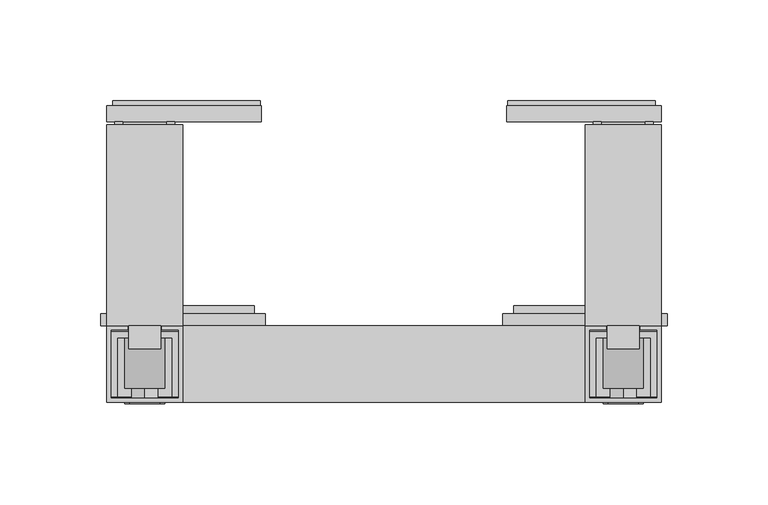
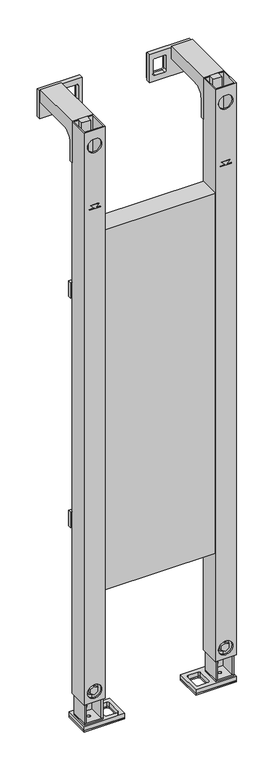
"""IFC4 building model written with IfcOpenShell, lengths in millimetres: flow terminal geometry, nextVIT Stütz-Stützklappgriff-Element : nextVIT Stütz-Stützklappgriff-Element."""

from ifc_helpers import new_model, si_unit, point, frame, frame_2d, origin, origin_with_axes, place, context, project, spatial, polyline, circle_curve, trimmed, segment, composite_curve, outline, extrude, source, transform, mapped, element, save
from ifc_brep_helpers import plane_surface, revolved_surface, advanced_brep


def flow_terminal_dd3215cd(model_context):
    return source(origin(), model_context, "Body", "SolidModel", [
        extrude(outline(polyline([(64.5, -102.0), (138.0, -102.0), (138.0, -150.0), (64.5, -150.0), (64.5, -102.0)]), holes=[composite_curve([segment(trimmed(circle_curve(frame_2d((74.0, -139.0)), 3.0), [point((71.0, -139.0))], [point((74.0, -142.0))], True, "CARTESIAN"), True, "CONTINUOUS"), segment(polyline([(74.0, -142.0), (91.5, -142.0)]), True, "CONTINUOUS"), segment(trimmed(circle_curve(frame_2d((91.5, -139.0)), 3.0), [point((91.5, -142.0))], [point((94.5, -139.0))], True, "CARTESIAN"), True, "CONTINUOUS"), segment(polyline([(94.5, -139.0), (94.5, -113.0)]), True, "CONTINUOUS"), segment(trimmed(circle_curve(frame_2d((91.5, -113.0)), 3.0), [point((94.5, -113.0))], [point((91.5, -110.0))], True, "CARTESIAN"), True, "CONTINUOUS"), segment(polyline([(91.5, -110.0), (74.0, -110.0)]), True, "CONTINUOUS"), segment(trimmed(circle_curve(frame_2d((74.0, -113.0)), 3.0), [point((74.0, -110.0))], [point((71.0, -113.0))], True, "CARTESIAN"), True, "CONTINUOUS"), segment(polyline([(71.0, -113.0), (71.0, -139.0)]), True, "CONTINUOUS")], self_intersect=False)]), origin_with_axes(), (0.0, 0.0, 1.0), 2.5),
        extrude(outline(polyline([(64.5, -102.0), (138.0, -102.0), (138.0, -150.0), (64.5, -150.0), (64.5, -102.0)]), holes=[composite_curve([segment(trimmed(circle_curve(frame_2d((74.0, -139.0)), 3.0), [point((71.0, -139.0))], [point((74.0, -142.0))], True, "CARTESIAN"), True, "CONTINUOUS"), segment(polyline([(74.0, -142.0), (91.5, -142.0)]), True, "CONTINUOUS"), segment(trimmed(circle_curve(frame_2d((91.5, -139.0)), 3.0), [point((91.5, -142.0))], [point((94.5, -139.0))], True, "CARTESIAN"), True, "CONTINUOUS"), segment(polyline([(94.5, -139.0), (94.5, -113.0)]), True, "CONTINUOUS"), segment(trimmed(circle_curve(frame_2d((91.5, -113.0)), 3.0), [point((94.5, -113.0))], [point((91.5, -110.0))], True, "CARTESIAN"), True, "CONTINUOUS"), segment(polyline([(91.5, -110.0), (74.0, -110.0)]), True, "CONTINUOUS"), segment(trimmed(circle_curve(frame_2d((74.0, -113.0)), 3.0), [point((74.0, -110.0))], [point((71.0, -113.0))], True, "CARTESIAN"), True, "CONTINUOUS"), segment(polyline([(71.0, -113.0), (71.0, -139.0)]), True, "CONTINUOUS")], self_intersect=False), composite_curve([segment(trimmed(circle_curve(frame_2d((120.45, -121.0)), 3.25), [point((123.7, -121.0))], [point((117.2, -121.0))], True, "CARTESIAN"), True, "CONTINUOUS"), segment(polyline([(117.2, -121.0), (117.2, -131.0)]), True, "CONTINUOUS"), segment(trimmed(circle_curve(frame_2d((120.45, -131.0)), 3.25), [point((117.2, -131.0))], [point((123.7, -131.0))], True, "CARTESIAN"), True, "CONTINUOUS"), segment(polyline([(123.7, -131.0), (123.7, -121.0)]), True, "CONTINUOUS")], self_intersect=False)]), frame((0.0, 0.0, 2.5), z_axis=(0.0, 0.0, 1.0), x_axis=(1.0, 0.0, 0.0)), (0.0, 0.0, 1.0), 8.0),
        extrude(outline(polyline([(79.7055535, 119.0), (75.9527767, 112.5), (68.4472233, 112.5), (64.6944465, 119.0), (68.4472233, 125.5), (75.9527767, 125.5), (79.7055535, 119.0)])), frame((0.0, -148.3, 0.0), z_axis=(0.0, 1.0, 0.0), x_axis=(0.0, 0.0, 1.0)), (0.0, 0.0, 1.0), 5.3),
        extrude(outline(composite_curve([segment(trimmed(circle_curve(frame_2d((72.2, 119.0)), 10.0), [point((72.2, 129.0))], [point((72.2, 109.0))], False, "CARTESIAN"), True, "CONTINUOUS"), segment(trimmed(circle_curve(frame_2d((72.2, 119.0)), 10.0), [point((72.2, 109.0))], [point((72.2, 129.0))], False, "CARTESIAN"), True, "CONTINUOUS")], self_intersect=False)), frame((0.0, -143.0, 0.0), z_axis=(0.0, 1.0, 0.0), x_axis=(0.0, 0.0, 1.0)), (0.0, 0.0, 1.0), 26.0),
        extrude(outline(polyline([(134.0, -109.0), (134.0, -112.0), (104.0, -112.0), (104.0, -109.0), (134.0, -109.0)])), frame((0.0, 0.0, 52.2), z_axis=(0.0, 0.0, 1.0), x_axis=(1.0, 0.0, 0.0)), (0.0, 0.0, 1.0), 40.0),
        extrude(outline(composite_curve([segment(trimmed(circle_curve(frame_2d((72.2, 119.0)), 4.0), [point((72.2, 123.0))], [point((72.2, 115.0))], False, "CARTESIAN"), True, "CONTINUOUS"), segment(trimmed(circle_curve(frame_2d((72.2, 119.0)), 4.0), [point((72.2, 115.0))], [point((72.2, 123.0))], False, "CARTESIAN"), True, "CONTINUOUS")], self_intersect=False)), frame((0.0, -117.0, 0.0), z_axis=(0.0, 1.0, 0.0), x_axis=(0.0, 0.0, 1.0)), (0.0, 0.0, 1.0), 19.0),
        extrude(outline(polyline([(102.4, -147.1), (102.4, -114.9), (135.6, -114.9), (135.6, -147.1), (102.4, -147.1)]), holes=[composite_curve([segment(trimmed(circle_curve(frame_2d((119.0, -131.9)), 2.5), [point((116.5, -131.9))], [point((121.5, -131.9))], True, "CARTESIAN"), True, "CONTINUOUS"), segment(trimmed(circle_curve(frame_2d((119.0, -131.9)), 2.5), [point((121.5, -131.9))], [point((116.5, -131.9))], True, "CARTESIAN"), True, "CONTINUOUS")], self_intersect=False)]), frame((0.0, 0.0, 10.5), z_axis=(0.0, 0.0, 1.0), x_axis=(1.0, 0.0, 0.0)), (0.0, 0.0, 1.0), 3.0),
        advanced_brep(
        [(132.6, -147.1, 363.5), (135.6, -147.1, 363.5), (135.6, -114.9, 363.5), (102.4, -114.9, 363.5), (102.4, -147.1, 363.5), (105.4, -147.1, 363.5), (105.4, -117.9, 363.5), (132.6, -117.9, 363.5), (132.6, -147.1, 13.5), (132.6, -117.9, 13.5), (105.4, -117.9, 13.5), (105.4, -147.1, 13.5), (102.4, -147.1, 13.5), (102.4, -114.9, 13.5), (135.6, -114.9, 13.5), (135.6, -147.1, 13.5), (114.5, -114.9, 23.6801435), (123.5, -114.9, 23.6801435), (114.0, -114.9, 37.7), (124.0, -114.9, 37.7), (124.0, -114.9, 335.5), (114.0, -114.9, 335.5), (123.5, -117.9, 23.6801435), (114.5, -117.9, 23.6801435), (114.0, -117.9, 335.5), (124.0, -117.9, 335.5), (124.0, -117.9, 37.7), (114.0, -117.9, 37.7)],
        [
            (0, 1),
            (1, 2),
            (2, 3),
            (3, 4),
            (4, 5),
            (5, 6),
            (6, 7),
            (7, 0),
            (8, 9),
            (9, 10),
            (10, 11),
            (11, 12),
            (12, 13),
            (13, 14),
            (14, 15),
            (15, 8),
            (3, 13),
            (12, 4),
            (2, 14),
            (16, 17, circle_curve(frame((119.0, -114.9, 23.6801435), z_axis=(0.0, -1.0, 0.0), x_axis=(1.0, 0.0, 0.0)), 4.5)),
            (17, 16, circle_curve(frame((119.0, -114.9, 23.6801435), z_axis=(0.0, -1.0, 0.0), x_axis=(1.0, 0.0, 0.0)), 4.5)),
            (18, 19, circle_curve(frame((119.0, -114.9, 37.7), z_axis=(0.0, -1.0, 0.0), x_axis=(1.0, 0.0, 0.0)), 5.0)),
            (19, 20),
            (20, 21, circle_curve(frame((119.0, -114.9, 335.5), z_axis=(0.0, -1.0, 0.0), x_axis=(1.0, 0.0, 0.0)), 5.0)),
            (21, 18),
            (1, 15),
            (0, 8),
            (7, 9),
            (6, 10),
            (22, 23, circle_curve(frame((119.0, -117.9, 23.6801435), z_axis=(0.0, 1.0, 0.0), x_axis=(1.0, 0.0, 0.0)), 4.5)),
            (23, 22, circle_curve(frame((119.0, -117.9, 23.6801435), z_axis=(0.0, 1.0, 0.0), x_axis=(1.0, 0.0, 0.0)), 4.5)),
            (24, 25, circle_curve(frame((119.0, -117.9, 335.5), z_axis=(0.0, 1.0, 0.0), x_axis=(1.0, 0.0, 0.0)), 5.0)),
            (25, 26),
            (26, 27, circle_curve(frame((119.0, -117.9, 37.7), z_axis=(0.0, 1.0, 0.0), x_axis=(1.0, 0.0, 0.0)), 5.0)),
            (27, 24),
            (5, 11),
            (23, 16),
            (17, 22),
            (27, 18),
            (21, 24),
            (20, 25),
            (19, 26),
        ],
        [
            plane_surface(frame((132.6, -147.1, 363.5), z_axis=(0.0, 0.0, 1.0), x_axis=(0.0, 1.0, 0.0))),
            plane_surface(frame((132.6, -147.1, 13.5), z_axis=(0.0, 0.0, -1.0), x_axis=(0.0, -1.0, 0.0))),
            plane_surface(frame((102.4, -147.1, 363.5), z_axis=(-1.0, 0.0, 0.0), x_axis=(0.0, 0.0, -1.0))),
            plane_surface(frame((102.4, -114.9, 363.5), z_axis=(0.0, 1.0, 0.0), x_axis=(0.0, 0.0, -1.0))),
            plane_surface(frame((135.6, -114.9, 363.5), z_axis=(1.0, 0.0, 0.0), x_axis=(0.0, 0.0, -1.0))),
            plane_surface(frame((135.6, -147.1, 363.5), z_axis=(0.0, -1.0, 0.0), x_axis=(0.0, 0.0, -1.0))),
            plane_surface(frame((132.6, -147.1, 363.5), z_axis=(-1.0, 0.0, 0.0), x_axis=(0.0, 0.0, -1.0))),
            plane_surface(frame((132.6, -117.9, 363.5), z_axis=(0.0, -1.0, 0.0), x_axis=(0.0, 0.0, -1.0))),
            plane_surface(frame((105.4, -117.9, 363.5), z_axis=(1.0, 0.0, 0.0), x_axis=(0.0, 0.0, -1.0))),
            plane_surface(frame((105.4, -147.1, 363.5), z_axis=(0.0, -1.0, 0.0), x_axis=(0.0, 0.0, -1.0))),
            revolved_surface(polyline([(123.5, -117.9, 23.6801435), (123.5, -114.9, 23.6801435)]), (119.0, -117.9, 23.6801435), (0.0, -1.0, 0.0)),
            plane_surface(frame((114.0, -117.9, 37.7), z_axis=(1.0, 0.0, 0.0), x_axis=(0.0, 1.0, 0.0))),
            revolved_surface(polyline([(124.0, -117.9, 335.5), (124.0, -114.9, 335.5)]), (119.0, -117.9, 335.5), (0.0, -1.0, 0.0)),
            plane_surface(frame((124.0, -117.9, 335.5), z_axis=(-1.0, 0.0, 0.0), x_axis=(0.0, 1.0, 0.0))),
            revolved_surface(polyline([(124.0, -117.9, 37.7), (124.0, -114.9, 37.7)]), (119.0, -117.9, 37.7), (0.0, -1.0, 0.0)),
        ],
        [
            (0, [[1, 2, 3, 4, 5, 6, 7, 8]]),
            (1, [[9, 10, 11, 12, 13, 14, 15, 16]]),
            (2, [[17, -13, 18, -4]]),
            (3, [[19, -14, -17, -3], [20, 21], [22, 23, 24, 25]]),
            (4, [[26, -15, -19, -2]]),
            (5, [[27, -16, -26, -1]]),
            (6, [[28, -9, -27, -8]]),
            (7, [[29, -10, -28, -7], [30, 31], [32, 33, 34, 35]]),
            (8, [[36, -11, -29, -6]]),
            (9, [[-18, -12, -36, -5]]),
            (10, [[-31, 37, -21, 38]]),
            (10, [[-20, -37, -30, -38]]),
            (11, [[-35, 39, -25, 40]]),
            (12, [[-24, 41, -32, -40]]),
            (13, [[-23, 42, -33, -41]]),
            (14, [[-34, -42, -22, -39]]),
        ],
    ),
        extrude(outline(polyline([(-64.5, -102.0), (-64.5, -150.0), (-138.0, -150.0), (-138.0, -102.0), (-64.5, -102.0)]), holes=[composite_curve([segment(polyline([(-71.0, -139.0), (-71.0, -113.0)]), True, "CONTINUOUS"), segment(trimmed(circle_curve(frame_2d((-74.0, -113.0)), 3.0), [point((-71.0, -113.0))], [point((-74.0, -110.0))], True, "CARTESIAN"), True, "CONTINUOUS"), segment(polyline([(-74.0, -110.0), (-91.5, -110.0)]), True, "CONTINUOUS"), segment(trimmed(circle_curve(frame_2d((-91.5, -113.0)), 3.0), [point((-91.5, -110.0))], [point((-94.5, -113.0))], True, "CARTESIAN"), True, "CONTINUOUS"), segment(polyline([(-94.5, -113.0), (-94.5, -139.0)]), True, "CONTINUOUS"), segment(trimmed(circle_curve(frame_2d((-91.5, -139.0)), 3.0), [point((-94.5, -139.0))], [point((-91.5, -142.0))], True, "CARTESIAN"), True, "CONTINUOUS"), segment(polyline([(-91.5, -142.0), (-74.0, -142.0)]), True, "CONTINUOUS"), segment(trimmed(circle_curve(frame_2d((-74.0, -139.0)), 3.0), [point((-74.0, -142.0))], [point((-71.0, -139.0))], True, "CARTESIAN"), True, "CONTINUOUS")], self_intersect=False)]), origin_with_axes(), (0.0, 0.0, 1.0), 2.5),
        extrude(outline(polyline([(-64.5, -102.0), (-64.5, -150.0), (-138.0, -150.0), (-138.0, -102.0), (-64.5, -102.0)]), holes=[composite_curve([segment(polyline([(-71.0, -139.0), (-71.0, -113.0)]), True, "CONTINUOUS"), segment(trimmed(circle_curve(frame_2d((-74.0, -113.0)), 3.0), [point((-71.0, -113.0))], [point((-74.0, -110.0))], True, "CARTESIAN"), True, "CONTINUOUS"), segment(polyline([(-74.0, -110.0), (-91.5, -110.0)]), True, "CONTINUOUS"), segment(trimmed(circle_curve(frame_2d((-91.5, -113.0)), 3.0), [point((-91.5, -110.0))], [point((-94.5, -113.0))], True, "CARTESIAN"), True, "CONTINUOUS"), segment(polyline([(-94.5, -113.0), (-94.5, -139.0)]), True, "CONTINUOUS"), segment(trimmed(circle_curve(frame_2d((-91.5, -139.0)), 3.0), [point((-94.5, -139.0))], [point((-91.5, -142.0))], True, "CARTESIAN"), True, "CONTINUOUS"), segment(polyline([(-91.5, -142.0), (-74.0, -142.0)]), True, "CONTINUOUS"), segment(trimmed(circle_curve(frame_2d((-74.0, -139.0)), 3.0), [point((-74.0, -142.0))], [point((-71.0, -139.0))], True, "CARTESIAN"), True, "CONTINUOUS")], self_intersect=False), composite_curve([segment(polyline([(-123.7, -121.0), (-123.7, -131.0)]), True, "CONTINUOUS"), segment(trimmed(circle_curve(frame_2d((-120.45, -131.0)), 3.25), [point((-123.7, -131.0))], [point((-117.2, -131.0))], True, "CARTESIAN"), True, "CONTINUOUS"), segment(polyline([(-117.2, -131.0), (-117.2, -121.0)]), True, "CONTINUOUS"), segment(trimmed(circle_curve(frame_2d((-120.45, -121.0)), 3.25), [point((-117.2, -121.0))], [point((-123.7, -121.0))], True, "CARTESIAN"), True, "CONTINUOUS")], self_intersect=False)]), frame((0.0, 0.0, 2.5), z_axis=(0.0, 0.0, 1.0), x_axis=(1.0, 0.0, 0.0)), (0.0, 0.0, 1.0), 8.0),
        extrude(outline(polyline([(1141.522581, 61.5), (1093.522581, 61.5), (1093.522581, 135.0), (1141.522581, 135.0), (1141.522581, 61.5)]), holes=[composite_curve([segment(polyline([(1104.522581, 68.0), (1130.522581, 68.0)]), True, "CONTINUOUS"), segment(trimmed(circle_curve(frame_2d((1130.522581, 71.0)), 3.0), [point((1130.522581, 68.0))], [point((1133.522581, 71.0))], True, "CARTESIAN"), True, "CONTINUOUS"), segment(polyline([(1133.522581, 71.0), (1133.522581, 88.5)]), True, "CONTINUOUS"), segment(trimmed(circle_curve(frame_2d((1130.522581, 88.5)), 3.0), [point((1133.522581, 88.5))], [point((1130.522581, 91.5))], True, "CARTESIAN"), True, "CONTINUOUS"), segment(polyline([(1130.522581, 91.5), (1104.522581, 91.5)]), True, "CONTINUOUS"), segment(trimmed(circle_curve(frame_2d((1104.522581, 88.5)), 3.0), [point((1104.522581, 91.5))], [point((1101.522581, 88.5))], True, "CARTESIAN"), True, "CONTINUOUS"), segment(polyline([(1101.522581, 88.5), (1101.522581, 71.0)]), True, "CONTINUOUS"), segment(trimmed(circle_curve(frame_2d((1104.522581, 71.0)), 3.0), [point((1101.522581, 71.0))], [point((1104.522581, 68.0))], True, "CARTESIAN"), True, "CONTINUOUS")], self_intersect=False)]), frame((0.0, -2.5, 0.0), z_axis=(0.0, 1.0, 0.0), x_axis=(0.0, 0.0, 1.0)), (0.0, 0.0, 1.0), 2.5),
        extrude(outline(polyline([(1141.522581, -61.5), (1141.522581, -135.0), (1093.522581, -135.0), (1093.522581, -61.5), (1141.522581, -61.5)]), holes=[composite_curve([segment(trimmed(circle_curve(frame_2d((1104.522581, -71.0)), 3.0), [point((1104.522581, -68.0))], [point((1101.522581, -71.0))], True, "CARTESIAN"), True, "CONTINUOUS"), segment(polyline([(1101.522581, -71.0), (1101.522581, -88.5)]), True, "CONTINUOUS"), segment(trimmed(circle_curve(frame_2d((1104.522581, -88.5)), 3.0), [point((1101.522581, -88.5))], [point((1104.522581, -91.5))], True, "CARTESIAN"), True, "CONTINUOUS"), segment(polyline([(1104.522581, -91.5), (1130.522581, -91.5)]), True, "CONTINUOUS"), segment(trimmed(circle_curve(frame_2d((1130.522581, -88.5)), 3.0), [point((1130.522581, -91.5))], [point((1133.522581, -88.5))], True, "CARTESIAN"), True, "CONTINUOUS"), segment(polyline([(1133.522581, -88.5), (1133.522581, -71.0)]), True, "CONTINUOUS"), segment(trimmed(circle_curve(frame_2d((1130.522581, -71.0)), 3.0), [point((1133.522581, -71.0))], [point((1130.522581, -68.0))], True, "CARTESIAN"), True, "CONTINUOUS"), segment(polyline([(1130.522581, -68.0), (1104.522581, -68.0)]), True, "CONTINUOUS")], self_intersect=False)]), frame((0.0, -2.5, 0.0), z_axis=(0.0, 1.0, 0.0), x_axis=(0.0, 0.0, 1.0)), (0.0, 0.0, 1.0), 2.5),
        extrude(outline(polyline([(-111.0, -112.0), (-111.0, -123.5), (-127.0, -123.5), (-127.0, -112.0), (-111.0, -112.0)])), frame((0.0, 0.0, 1113.0), z_axis=(0.0, 0.0, 1.0), x_axis=(1.0, 0.0, 0.0)), (0.0, 0.0, 1.0), 35.0),
        extrude(outline(polyline([(1144.022581, -138.0), (1091.022581, -138.0), (1091.022581, -61.0), (1144.022581, -61.0), (1144.022581, -138.0)]), holes=[composite_curve([segment(polyline([(1133.522581, -88.5), (1133.522581, -71.0)]), True, "CONTINUOUS"), segment(trimmed(circle_curve(frame_2d((1130.522581, -71.0)), 3.0), [point((1133.522581, -71.0))], [point((1130.522581, -68.0))], True, "CARTESIAN"), True, "CONTINUOUS"), segment(polyline([(1130.522581, -68.0), (1104.522581, -68.0)]), True, "CONTINUOUS"), segment(trimmed(circle_curve(frame_2d((1104.522581, -71.0)), 3.0), [point((1104.522581, -68.0))], [point((1101.522581, -71.0))], True, "CARTESIAN"), True, "CONTINUOUS"), segment(polyline([(1101.522581, -71.0), (1101.522581, -88.5)]), True, "CONTINUOUS"), segment(trimmed(circle_curve(frame_2d((1104.522581, -88.5)), 3.0), [point((1101.522581, -88.5))], [point((1104.522581, -91.5))], True, "CARTESIAN"), True, "CONTINUOUS"), segment(polyline([(1104.522581, -91.5), (1130.522581, -91.5)]), True, "CONTINUOUS"), segment(trimmed(circle_curve(frame_2d((1130.522581, -88.5)), 3.0), [point((1130.522581, -91.5))], [point((1133.522581, -88.5))], True, "CARTESIAN"), True, "CONTINUOUS")], self_intersect=False)]), frame((0.0, -10.5, 0.0), z_axis=(0.0, 1.0, 0.0), x_axis=(0.0, 0.0, 1.0)), (0.0, 0.0, 1.0), 8.0),
        extrude(outline(polyline([(1128.022581, -108.05), (1128.022581, -129.95), (1145.0, -129.95), (1145.0, -133.95), (1124.5225837, -133.95), (1124.5225837, -104.05), (1145.0, -104.05), (1145.0, -108.05), (1128.022581, -108.05)])), frame((0.0, -105.0, 0.0), z_axis=(0.0, 1.0, 0.0), x_axis=(0.0, 0.0, 1.0)), (0.0, 0.0, 1.0), 94.5),
        advanced_brep(
        [(-100.0, -12.0882353, 1124.0), (-100.0, -12.0882353, 1148.0), (-100.0, -112.0, 1148.0), (-100.0, -112.0, 1069.0231613), (-100.0, -106.0, 1069.0231613), (-100.0, -106.0, 1104.0), (-100.0, -86.0, 1124.0), (-138.0, -12.0882353, 1124.0), (-138.0, -86.0, 1124.0), (-138.0, -106.0, 1104.0), (-138.0, -106.0, 1069.0231613), (-138.0, -112.0, 1069.0231613), (-138.0, -112.0, 1148.0), (-138.0, -12.0882353, 1148.0), (-103.0, -12.0882353, 1124.0), (-103.0, -12.0882353, 1144.0), (-135.0, -12.0882353, 1144.0), (-135.0, -12.0882353, 1124.0), (-135.0, -106.0, 1104.0), (-135.0, -106.0, 1144.0), (-103.0, -106.0, 1144.0), (-103.0, -106.0, 1104.0), (-103.0, -86.0, 1124.0), (-135.0, -86.0, 1124.0)],
        [
            (0, 1),
            (1, 2),
            (2, 3),
            (3, 4),
            (4, 5),
            (5, 6, circle_curve(frame((-100.0, -86.0, 1104.0), z_axis=(-1.0, 0.0, 0.0), x_axis=(0.0, 1.0, 0.0)), 20.0)),
            (6, 0),
            (7, 8),
            (8, 9, circle_curve(frame((-138.0, -86.0, 1104.0), z_axis=(1.0, 0.0, 0.0), x_axis=(0.0, 1.0, 0.0)), 20.0)),
            (9, 10),
            (10, 11),
            (11, 12),
            (12, 13),
            (13, 7),
            (0, 14),
            (14, 15),
            (15, 16),
            (16, 17),
            (17, 7),
            (13, 1),
            (12, 2),
            (11, 3),
            (10, 4),
            (9, 18),
            (18, 19),
            (19, 20),
            (20, 21),
            (21, 5),
            (21, 22, circle_curve(frame((-103.0, -86.0, 1104.0), z_axis=(-1.0, 0.0, 0.0), x_axis=(0.0, 1.0, 0.0)), 20.0)),
            (22, 6),
            (8, 23),
            (23, 18, circle_curve(frame((-135.0, -86.0, 1104.0), z_axis=(1.0, 0.0, 0.0), x_axis=(0.0, 1.0, 0.0)), 20.0)),
            (22, 14),
            (17, 23),
            (20, 15),
            (19, 16),
        ],
        [
            plane_surface(frame((-100.0, -12.0882353, 1124.0), z_axis=(1.0, 0.0, 0.0), x_axis=(0.0, 0.0, 1.0))),
            plane_surface(frame((-138.0, -12.0882353, 1124.0), z_axis=(-1.0, 0.0, 0.0), x_axis=(0.0, 0.0, -1.0))),
            plane_surface(frame((-100.0, -12.0882353, 1124.0), z_axis=(0.0, 1.0, 0.0), x_axis=(-1.0, 0.0, 0.0))),
            plane_surface(frame((-100.0, -12.0882353, 1148.0), z_axis=(0.0, 0.0, 1.0), x_axis=(-1.0, 0.0, 0.0))),
            plane_surface(frame((-100.0, -112.0, 1148.0), z_axis=(0.0, -1.0, 0.0), x_axis=(-1.0, 0.0, 0.0))),
            plane_surface(frame((-100.0, -112.0, 1069.0231613), z_axis=(0.0, 0.0, -1.0), x_axis=(-1.0, 0.0, 0.0))),
            plane_surface(frame((-100.0, -106.0, 1069.0231613), z_axis=(0.0, 1.0, 0.0), x_axis=(-1.0, 0.0, 0.0))),
            revolved_surface(polyline([(-103.0, -66.0, 1104.0), (-100.0, -66.0, 1104.0)]), (-138.0, -86.0, 1104.0), (-1.0, 0.0, 0.0)),
            revolved_surface(polyline([(-138.0, -66.0, 1104.0), (-135.0, -66.0, 1104.0)]), (-138.0, -86.0, 1104.0), (-1.0, 0.0, 0.0)),
            plane_surface(frame((-100.0, -86.0, 1124.0), z_axis=(0.0, 0.0, -1.0), x_axis=(-1.0, 0.0, 0.0))),
            plane_surface(frame((-103.0, -106.0, 1102.9875977), z_axis=(-1.0, 0.0, 0.0), x_axis=(0.0, 1.0, 0.0))),
            plane_surface(frame((-103.0, -106.0, 1144.0), z_axis=(0.0, 0.0, -1.0), x_axis=(0.0, 1.0, 0.0))),
            plane_surface(frame((-135.0, -106.0, 1144.0), z_axis=(1.0, 0.0, 0.0), x_axis=(0.0, 1.0, 0.0))),
        ],
        [
            (0, [[1, 2, 3, 4, 5, 6, 7]]),
            (1, [[8, 9, 10, 11, 12, 13, 14]]),
            (2, [[-1, 15, 16, 17, 18, 19, -14, 20]]),
            (3, [[-2, -20, -13, 21]]),
            (4, [[-3, -21, -12, 22]]),
            (5, [[-4, -22, -11, 23]]),
            (6, [[-5, -23, -10, 24, 25, 26, 27, 28]]),
            (7, [[-6, -28, 29, 30]]),
            (8, [[-9, 31, 32, -24]]),
            (9, [[-7, -30, 33, -15]]),
            (9, [[-8, -19, 34, -31]]),
            (10, [[35, -16, -33, -29, -27]]),
            (11, [[-26, 36, -17, -35]]),
            (12, [[-36, -25, -32, -34, -18]]),
        ],
    ),
        extrude(outline(polyline([(111.0, -112.0), (127.0, -112.0), (127.0, -123.5), (111.0, -123.5), (111.0, -112.0)])), frame((0.0, 0.0, 1113.0), z_axis=(0.0, 0.0, 1.0), x_axis=(1.0, 0.0, 0.0)), (0.0, 0.0, 1.0), 35.0),
        extrude(outline(polyline([(1144.022581, 138.0), (1144.022581, 61.0), (1091.022581, 61.0), (1091.022581, 138.0), (1144.022581, 138.0)]), holes=[composite_curve([segment(trimmed(circle_curve(frame_2d((1130.522581, 88.5)), 3.0), [point((1133.522581, 88.5))], [point((1130.522581, 91.5))], True, "CARTESIAN"), True, "CONTINUOUS"), segment(polyline([(1130.522581, 91.5), (1104.522581, 91.5)]), True, "CONTINUOUS"), segment(trimmed(circle_curve(frame_2d((1104.522581, 88.5)), 3.0), [point((1104.522581, 91.5))], [point((1101.522581, 88.5))], True, "CARTESIAN"), True, "CONTINUOUS"), segment(polyline([(1101.522581, 88.5), (1101.522581, 71.0)]), True, "CONTINUOUS"), segment(trimmed(circle_curve(frame_2d((1104.522581, 71.0)), 3.0), [point((1101.522581, 71.0))], [point((1104.522581, 68.0))], True, "CARTESIAN"), True, "CONTINUOUS"), segment(polyline([(1104.522581, 68.0), (1130.522581, 68.0)]), True, "CONTINUOUS"), segment(trimmed(circle_curve(frame_2d((1130.522581, 71.0)), 3.0), [point((1130.522581, 68.0))], [point((1133.522581, 71.0))], True, "CARTESIAN"), True, "CONTINUOUS"), segment(polyline([(1133.522581, 71.0), (1133.522581, 88.5)]), True, "CONTINUOUS")], self_intersect=False)]), frame((0.0, -10.5, 0.0), z_axis=(0.0, 1.0, 0.0), x_axis=(0.0, 0.0, 1.0)), (0.0, 0.0, 1.0), 8.0),
        extrude(outline(polyline([(1128.022581, 108.05), (1145.0, 108.05), (1145.0, 104.05), (1124.5225837, 104.05), (1124.5225837, 133.95), (1145.0, 133.95), (1145.0, 129.95), (1128.022581, 129.95), (1128.022581, 108.05)])), frame((0.0, -105.0, 0.0), z_axis=(0.0, 1.0, 0.0), x_axis=(0.0, 0.0, 1.0)), (0.0, 0.0, 1.0), 94.5),
        advanced_brep(
        [(100.0, -12.0882353, 1124.0), (100.0, -86.0, 1124.0), (100.0, -106.0, 1104.0), (100.0, -106.0, 1069.0231613), (100.0, -112.0, 1069.0231613), (100.0, -112.0, 1148.0), (100.0, -12.0882353, 1148.0), (138.0, -12.0882353, 1124.0), (138.0, -12.0882353, 1148.0), (138.0, -112.0, 1148.0), (138.0, -112.0, 1069.0231613), (138.0, -106.0, 1069.0231613), (138.0, -106.0, 1104.0), (138.0, -86.0, 1124.0), (135.0, -12.0882353, 1124.0), (135.0, -12.0882353, 1144.0), (103.0, -12.0882353, 1144.0), (103.0, -12.0882353, 1124.0), (103.0, -106.0, 1104.0), (103.0, -106.0, 1144.0), (135.0, -106.0, 1144.0), (135.0, -106.0, 1104.0), (103.0, -86.0, 1124.0), (135.0, -86.0, 1124.0)],
        [
            (0, 1),
            (1, 2, circle_curve(frame((100.0, -86.0, 1104.0), z_axis=(1.0, 0.0, 0.0), x_axis=(0.0, 1.0, 0.0)), 20.0)),
            (2, 3),
            (3, 4),
            (4, 5),
            (5, 6),
            (6, 0),
            (7, 8),
            (8, 9),
            (9, 10),
            (10, 11),
            (11, 12),
            (12, 13, circle_curve(frame((138.0, -86.0, 1104.0), z_axis=(-1.0, 0.0, 0.0), x_axis=(0.0, 1.0, 0.0)), 20.0)),
            (13, 7),
            (6, 8),
            (7, 14),
            (14, 15),
            (15, 16),
            (16, 17),
            (17, 0),
            (5, 9),
            (4, 10),
            (3, 11),
            (2, 18),
            (18, 19),
            (19, 20),
            (20, 21),
            (21, 12),
            (1, 22),
            (22, 18, circle_curve(frame((103.0, -86.0, 1104.0), z_axis=(1.0, 0.0, 0.0), x_axis=(0.0, 1.0, 0.0)), 20.0)),
            (21, 23, circle_curve(frame((135.0, -86.0, 1104.0), z_axis=(-1.0, 0.0, 0.0), x_axis=(0.0, 1.0, 0.0)), 20.0)),
            (23, 13),
            (17, 22),
            (23, 14),
            (16, 19),
            (15, 20),
        ],
        [
            plane_surface(frame((100.0, -12.0882353, 1124.0), z_axis=(-1.0, 0.0, 0.0), x_axis=(0.0, 0.0, -1.0))),
            plane_surface(frame((138.0, -12.0882353, 1124.0), z_axis=(1.0, 0.0, 0.0), x_axis=(0.0, 0.0, 1.0))),
            plane_surface(frame((138.0, -12.0882353, 1124.0), z_axis=(0.0, 1.0, 0.0), x_axis=(-1.0, 0.0, 0.0))),
            plane_surface(frame((138.0, -12.0882353, 1148.0), z_axis=(0.0, 0.0, 1.0), x_axis=(-1.0, 0.0, 0.0))),
            plane_surface(frame((138.0, -112.0, 1148.0), z_axis=(0.0, -1.0, 0.0), x_axis=(-1.0, 0.0, 0.0))),
            plane_surface(frame((138.0, -112.0, 1069.0231613), z_axis=(0.0, 0.0, -1.0), x_axis=(-1.0, 0.0, 0.0))),
            plane_surface(frame((138.0, -106.0, 1069.0231613), z_axis=(0.0, 1.0, 0.0), x_axis=(-1.0, 0.0, 0.0))),
            revolved_surface(polyline([(100.0, -66.0, 1104.0), (103.0, -66.0, 1104.0)]), (100.0, -86.0, 1104.0), (-1.0, 0.0, 0.0)),
            revolved_surface(polyline([(135.0, -66.0, 1104.0), (138.0, -66.0, 1104.0)]), (100.0, -86.0, 1104.0), (-1.0, 0.0, 0.0)),
            plane_surface(frame((138.0, -86.0, 1124.0), z_axis=(0.0, 0.0, -1.0), x_axis=(-1.0, 0.0, 0.0))),
            plane_surface(frame((103.0, -106.0, 1144.0), z_axis=(1.0, 0.0, 0.0), x_axis=(0.0, 1.0, 0.0))),
            plane_surface(frame((135.0, -106.0, 1144.0), z_axis=(0.0, 0.0, -1.0), x_axis=(0.0, 1.0, 0.0))),
            plane_surface(frame((135.0, -106.0, 1102.9875977), z_axis=(-1.0, 0.0, 0.0), x_axis=(0.0, 1.0, 0.0))),
        ],
        [
            (0, [[1, 2, 3, 4, 5, 6, 7]]),
            (1, [[8, 9, 10, 11, 12, 13, 14]]),
            (2, [[-7, 15, -8, 16, 17, 18, 19, 20]]),
            (3, [[-6, 21, -9, -15]]),
            (4, [[-5, 22, -10, -21]]),
            (5, [[-4, 23, -11, -22]]),
            (6, [[-3, 24, 25, 26, 27, 28, -12, -23]]),
            (7, [[-2, 29, 30, -24]]),
            (8, [[-13, -28, 31, 32]]),
            (9, [[-1, -20, 33, -29]]),
            (9, [[-14, -32, 34, -16]]),
            (10, [[35, -25, -30, -33, -19]]),
            (11, [[-26, -35, -18, 36]]),
            (12, [[-36, -17, -34, -31, -27]]),
        ],
    ),
        extrude(outline(polyline([(79.7055535, -119.0), (75.9527767, -125.5), (68.4472233, -125.5), (64.6944465, -119.0), (68.4472233, -112.5), (75.9527767, -112.5), (79.7055535, -119.0)])), frame((0.0, -148.3, 0.0), z_axis=(0.0, 1.0, 0.0), x_axis=(0.0, 0.0, 1.0)), (0.0, 0.0, 1.0), 5.3),
        extrude(outline(composite_curve([segment(trimmed(circle_curve(frame_2d((72.2, -119.0)), 10.0), [point((72.2, -129.0))], [point((72.2, -109.0))], False, "CARTESIAN"), True, "CONTINUOUS"), segment(trimmed(circle_curve(frame_2d((72.2, -119.0)), 10.0), [point((72.2, -109.0))], [point((72.2, -129.0))], False, "CARTESIAN"), True, "CONTINUOUS")], self_intersect=False)), frame((0.0, -143.0, 0.0), z_axis=(0.0, 1.0, 0.0), x_axis=(0.0, 0.0, 1.0)), (0.0, 0.0, 1.0), 26.0),
        extrude(outline(polyline([(-134.0, -109.0), (-104.0, -109.0), (-104.0, -112.0), (-134.0, -112.0), (-134.0, -109.0)])), frame((0.0, 0.0, 52.2), z_axis=(0.0, 0.0, 1.0), x_axis=(1.0, 0.0, 0.0)), (0.0, 0.0, 1.0), 40.0),
        extrude(outline(composite_curve([segment(trimmed(circle_curve(frame_2d((72.2, -119.0)), 4.0), [point((72.2, -123.0))], [point((72.2, -115.0))], False, "CARTESIAN"), True, "CONTINUOUS"), segment(trimmed(circle_curve(frame_2d((72.2, -119.0)), 4.0), [point((72.2, -115.0))], [point((72.2, -123.0))], False, "CARTESIAN"), True, "CONTINUOUS")], self_intersect=False)), frame((0.0, -117.0, 0.0), z_axis=(0.0, 1.0, 0.0), x_axis=(0.0, 0.0, 1.0)), (0.0, 0.0, 1.0), 19.0),
        extrude(outline(polyline([(-102.4, -147.1), (-135.6, -147.1), (-135.6, -114.9), (-102.4, -114.9), (-102.4, -147.1)]), holes=[composite_curve([segment(trimmed(circle_curve(frame_2d((-119.0, -131.9)), 2.5), [point((-116.5, -131.9))], [point((-121.5, -131.9))], True, "CARTESIAN"), True, "CONTINUOUS"), segment(trimmed(circle_curve(frame_2d((-119.0, -131.9)), 2.5), [point((-121.5, -131.9))], [point((-116.5, -131.9))], True, "CARTESIAN"), True, "CONTINUOUS")], self_intersect=False)]), frame((0.0, 0.0, 10.5), z_axis=(0.0, 0.0, 1.0), x_axis=(1.0, 0.0, 0.0)), (0.0, 0.0, 1.0), 3.0),
        advanced_brep(
        [(-132.6, -147.1, 363.5), (-132.6, -117.9, 363.5), (-105.4, -117.9, 363.5), (-105.4, -147.1, 363.5), (-102.4, -147.1, 363.5), (-102.4, -114.9, 363.5), (-135.6, -114.9, 363.5), (-135.6, -147.1, 363.5), (-132.6, -147.1, 13.5), (-135.6, -147.1, 13.5), (-135.6, -114.9, 13.5), (-102.4, -114.9, 13.5), (-102.4, -147.1, 13.5), (-105.4, -147.1, 13.5), (-105.4, -117.9, 13.5), (-132.6, -117.9, 13.5), (-114.5, -114.9, 23.6801435), (-123.5, -114.9, 23.6801435), (-114.0, -114.9, 37.7), (-114.0, -114.9, 335.5), (-124.0, -114.9, 335.5), (-124.0, -114.9, 37.7), (-123.5, -117.9, 23.6801435), (-114.5, -117.9, 23.6801435), (-114.0, -117.9, 335.5), (-114.0, -117.9, 37.7), (-124.0, -117.9, 37.7), (-124.0, -117.9, 335.5)],
        [
            (0, 1),
            (1, 2),
            (2, 3),
            (3, 4),
            (4, 5),
            (5, 6),
            (6, 7),
            (7, 0),
            (8, 9),
            (9, 10),
            (10, 11),
            (11, 12),
            (12, 13),
            (13, 14),
            (14, 15),
            (15, 8),
            (4, 12),
            (11, 5),
            (10, 6),
            (16, 17, circle_curve(frame((-119.0, -114.9, 23.6801435), z_axis=(0.0, -1.0, 0.0), x_axis=(-1.0, 0.0, 0.0)), 4.5)),
            (17, 16, circle_curve(frame((-119.0, -114.9, 23.6801435), z_axis=(0.0, -1.0, 0.0), x_axis=(-1.0, 0.0, 0.0)), 4.5)),
            (18, 19),
            (19, 20, circle_curve(frame((-119.0, -114.9, 335.5), z_axis=(0.0, -1.0, 0.0), x_axis=(-1.0, 0.0, 0.0)), 5.0)),
            (20, 21),
            (21, 18, circle_curve(frame((-119.0, -114.9, 37.7), z_axis=(0.0, -1.0, 0.0), x_axis=(-1.0, 0.0, 0.0)), 5.0)),
            (9, 7),
            (8, 0),
            (15, 1),
            (14, 2),
            (22, 23, circle_curve(frame((-119.0, -117.9, 23.6801435), z_axis=(0.0, 1.0, 0.0), x_axis=(-1.0, 0.0, 0.0)), 4.5)),
            (23, 22, circle_curve(frame((-119.0, -117.9, 23.6801435), z_axis=(0.0, 1.0, 0.0), x_axis=(-1.0, 0.0, 0.0)), 4.5)),
            (24, 25),
            (25, 26, circle_curve(frame((-119.0, -117.9, 37.7), z_axis=(0.0, 1.0, 0.0), x_axis=(-1.0, 0.0, 0.0)), 5.0)),
            (26, 27),
            (27, 24, circle_curve(frame((-119.0, -117.9, 335.5), z_axis=(0.0, 1.0, 0.0), x_axis=(-1.0, 0.0, 0.0)), 5.0)),
            (13, 3),
            (22, 17),
            (16, 23),
            (24, 19),
            (18, 25),
            (27, 20),
            (26, 21),
        ],
        [
            plane_surface(frame((-132.6, -147.1, 363.5), z_axis=(0.0, 0.0, 1.0), x_axis=(0.0, 1.0, 0.0))),
            plane_surface(frame((-132.6, -147.1, 13.5), z_axis=(0.0, 0.0, -1.0), x_axis=(0.0, -1.0, 0.0))),
            plane_surface(frame((-102.4, -147.1, 363.5), z_axis=(1.0, 0.0, 0.0), x_axis=(0.0, 0.0, -1.0))),
            plane_surface(frame((-102.4, -114.9, 363.5), z_axis=(0.0, 1.0, 0.0), x_axis=(0.0, 0.0, -1.0))),
            plane_surface(frame((-135.6, -114.9, 363.5), z_axis=(-1.0, 0.0, 0.0), x_axis=(0.0, 0.0, -1.0))),
            plane_surface(frame((-135.6, -147.1, 363.5), z_axis=(0.0, -1.0, 0.0), x_axis=(0.0, 0.0, -1.0))),
            plane_surface(frame((-132.6, -147.1, 363.5), z_axis=(1.0, 0.0, 0.0), x_axis=(0.0, 0.0, -1.0))),
            plane_surface(frame((-132.6, -117.9, 363.5), z_axis=(0.0, -1.0, 0.0), x_axis=(0.0, 0.0, -1.0))),
            plane_surface(frame((-105.4, -117.9, 363.5), z_axis=(-1.0, 0.0, 0.0), x_axis=(0.0, 0.0, -1.0))),
            plane_surface(frame((-105.4, -147.1, 363.5), z_axis=(0.0, -1.0, 0.0), x_axis=(0.0, 0.0, -1.0))),
            revolved_surface(polyline([(-123.5, -117.9, 23.6801435), (-123.5, -114.9, 23.6801435)]), (-119.0, -117.9, 23.6801435), (0.0, -1.0, 0.0)),
            plane_surface(frame((-114.0, -117.9, 37.7), z_axis=(-1.0, 0.0, 0.0), x_axis=(0.0, 1.0, 0.0))),
            revolved_surface(polyline([(-124.0, -117.9, 335.5), (-124.0, -114.9, 335.5)]), (-119.0, -117.9, 335.5), (0.0, -1.0, 0.0)),
            plane_surface(frame((-124.0, -117.9, 335.5), z_axis=(1.0, 0.0, 0.0), x_axis=(0.0, 1.0, 0.0))),
            revolved_surface(polyline([(-124.0, -117.9, 37.7), (-124.0, -114.9, 37.7)]), (-119.0, -117.9, 37.7), (0.0, -1.0, 0.0)),
        ],
        [
            (0, [[1, 2, 3, 4, 5, 6, 7, 8]]),
            (1, [[9, 10, 11, 12, 13, 14, 15, 16]]),
            (2, [[-5, 17, -12, 18]]),
            (3, [[-6, -18, -11, 19], [20, 21], [22, 23, 24, 25]]),
            (4, [[-7, -19, -10, 26]]),
            (5, [[-8, -26, -9, 27]]),
            (6, [[-1, -27, -16, 28]]),
            (7, [[-2, -28, -15, 29], [30, 31], [32, 33, 34, 35]]),
            (8, [[-3, -29, -14, 36]]),
            (9, [[-4, -36, -13, -17]]),
            (10, [[37, -20, 38, -30]]),
            (10, [[-37, -31, -38, -21]]),
            (11, [[39, -22, 40, -32]]),
            (12, [[-39, -35, 41, -23]]),
            (13, [[-41, -34, 42, -24]]),
            (14, [[-40, -25, -42, -33]]),
        ],
    ),
        extrude(outline(polyline([(998.0, -109.0), (998.8, -109.0), (998.8, -118.2), (1005.5, -111.5), (1005.5, -126.5), (998.8, -119.8), (998.8, -128.9917762), (998.0, -128.9917762), (998.0, -109.0)])), frame((0.0, -150.8323234, 0.0), z_axis=(0.0, 1.0, 0.0), x_axis=(0.0, 0.0, 1.0)), (0.0, 0.0, 1.0), 0.8323234),
        advanced_brep(
        [(-138.0, -112.0, 1148.0), (-138.0, -150.0, 1148.0), (-100.0, -150.0, 1148.0), (-100.0, -112.0, 1148.0), (-110.5, -112.0, 1148.0), (-110.5, -114.0, 1148.0), (-102.0, -114.0, 1148.0), (-102.0, -148.0, 1148.0), (-136.0, -148.0, 1148.0), (-136.0, -114.0, 1148.0), (-127.5, -114.0, 1148.0), (-127.5, -112.0, 1148.0), (-138.0, -112.0, 52.0), (-127.5, -112.0, 52.0), (-127.5, -114.0, 52.0), (-136.0, -114.0, 52.0), (-136.0, -148.0, 52.0), (-102.0, -148.0, 52.0), (-102.0, -114.0, 52.0), (-110.5, -114.0, 52.0), (-110.5, -112.0, 52.0), (-100.0, -112.0, 52.0), (-100.0, -150.0, 52.0), (-138.0, -150.0, 52.0), (-106.0, -150.0, 72.0), (-132.0, -150.0, 72.0), (-106.0, -150.0, 1118.0), (-132.0, -150.0, 1118.0), (-132.0, -148.0, 72.0), (-106.0, -148.0, 72.0), (-132.0, -148.0, 1118.0), (-106.0, -148.0, 1118.0)],
        [
            (0, 1),
            (1, 2),
            (2, 3),
            (3, 4),
            (4, 5),
            (5, 6),
            (6, 7),
            (7, 8),
            (8, 9),
            (9, 10),
            (10, 11),
            (11, 0),
            (12, 13),
            (13, 14),
            (14, 15),
            (15, 16),
            (16, 17),
            (17, 18),
            (18, 19),
            (19, 20),
            (20, 21),
            (21, 22),
            (22, 23),
            (23, 12),
            (0, 12),
            (23, 1),
            (22, 2),
            (24, 25, circle_curve(frame((-119.0, -150.0, 72.0), z_axis=(0.0, 1.0, 0.0), x_axis=(1.0, 0.0, 0.0)), 13.0)),
            (25, 24, circle_curve(frame((-119.0, -150.0, 72.0), z_axis=(0.0, 1.0, 0.0), x_axis=(1.0, 0.0, 0.0)), 13.0)),
            (26, 27, circle_curve(frame((-119.0, -150.0, 1118.0), z_axis=(0.0, 1.0, 0.0), x_axis=(1.0, 0.0, 0.0)), 13.0)),
            (27, 26, circle_curve(frame((-119.0, -150.0, 1118.0), z_axis=(0.0, 1.0, 0.0), x_axis=(1.0, 0.0, 0.0)), 13.0)),
            (21, 3),
            (20, 4),
            (19, 5),
            (18, 6),
            (17, 7),
            (16, 8),
            (28, 29, circle_curve(frame((-119.0, -148.0, 72.0), z_axis=(0.0, -1.0, 0.0), x_axis=(1.0, 0.0, 0.0)), 13.0)),
            (29, 28, circle_curve(frame((-119.0, -148.0, 72.0), z_axis=(0.0, -1.0, 0.0), x_axis=(1.0, 0.0, 0.0)), 13.0)),
            (30, 31, circle_curve(frame((-119.0, -148.0, 1118.0), z_axis=(0.0, -1.0, 0.0), x_axis=(1.0, 0.0, 0.0)), 13.0)),
            (31, 30, circle_curve(frame((-119.0, -148.0, 1118.0), z_axis=(0.0, -1.0, 0.0), x_axis=(1.0, 0.0, 0.0)), 13.0)),
            (15, 9),
            (14, 10),
            (13, 11),
            (28, 25),
            (24, 29),
            (30, 27),
            (26, 31),
        ],
        [
            plane_surface(frame((-138.0, -150.0, 1148.0), z_axis=(0.0, 0.0, 1.0), x_axis=(0.0, -1.0, 0.0))),
            plane_surface(frame((-138.0, -150.0, 52.0), z_axis=(0.0, 0.0, -1.0), x_axis=(0.0, 1.0, 0.0))),
            plane_surface(frame((-138.0, -112.0, 1148.0), z_axis=(-1.0, 0.0, 0.0), x_axis=(0.0, 0.0, -1.0))),
            plane_surface(frame((-138.0, -150.0, 1148.0), z_axis=(0.0, -1.0, 0.0), x_axis=(0.0, 0.0, -1.0))),
            plane_surface(frame((-100.0, -150.0, 1148.0), z_axis=(1.0, 0.0, 0.0), x_axis=(0.0, 0.0, -1.0))),
            plane_surface(frame((-100.0, -112.0, 1148.0), z_axis=(0.0, 1.0, 0.0), x_axis=(0.0, 0.0, -1.0))),
            plane_surface(frame((-110.5, -112.0, 1148.0), z_axis=(-1.0, 0.0, 0.0), x_axis=(0.0, 0.0, -1.0))),
            plane_surface(frame((-110.5, -114.0, 1148.0), z_axis=(0.0, -1.0, 0.0), x_axis=(0.0, 0.0, -1.0))),
            plane_surface(frame((-102.0, -114.0, 1148.0), z_axis=(-1.0, 0.0, 0.0), x_axis=(0.0, 0.0, -1.0))),
            plane_surface(frame((-102.0, -148.0, 1148.0), z_axis=(0.0, 1.0, 0.0), x_axis=(0.0, 0.0, -1.0))),
            plane_surface(frame((-136.0, -148.0, 1148.0), z_axis=(1.0, 0.0, 0.0), x_axis=(0.0, 0.0, -1.0))),
            plane_surface(frame((-136.0, -114.0, 1148.0), z_axis=(0.0, -1.0, 0.0), x_axis=(0.0, 0.0, -1.0))),
            plane_surface(frame((-127.5, -114.0, 1148.0), z_axis=(1.0, 0.0, 0.0), x_axis=(0.0, 0.0, -1.0))),
            plane_surface(frame((-127.5, -112.0, 1148.0), z_axis=(0.0, 1.0, 0.0), x_axis=(0.0, 0.0, -1.0))),
            revolved_surface(polyline([(-106.0, -148.0, 72.0), (-106.0, -150.0, 72.0)]), (-119.0, -148.0, 72.0), (0.0, 1.0, 0.0)),
            revolved_surface(polyline([(-106.0, -148.0, 1118.0), (-106.0, -150.0, 1118.0)]), (-119.0, -148.0, 1118.0), (0.0, 1.0, 0.0)),
        ],
        [
            (0, [[1, 2, 3, 4, 5, 6, 7, 8, 9, 10, 11, 12]]),
            (1, [[13, 14, 15, 16, 17, 18, 19, 20, 21, 22, 23, 24]]),
            (2, [[-1, 25, -24, 26]]),
            (3, [[-2, -26, -23, 27], [28, 29], [30, 31]]),
            (4, [[-3, -27, -22, 32]]),
            (5, [[-4, -32, -21, 33]]),
            (6, [[-5, -33, -20, 34]]),
            (7, [[-6, -34, -19, 35]]),
            (8, [[-7, -35, -18, 36]]),
            (9, [[-8, -36, -17, 37], [38, 39], [40, 41]]),
            (10, [[-9, -37, -16, 42]]),
            (11, [[-10, -42, -15, 43]]),
            (12, [[-11, -43, -14, 44]]),
            (13, [[-12, -44, -13, -25]]),
            (14, [[45, -28, 46, -38]]),
            (14, [[-45, -39, -46, -29]]),
            (15, [[47, -30, 48, -40]]),
            (15, [[-47, -41, -48, -31]]),
        ],
    ),
        extrude(outline(polyline([(100.0, -112.0), (100.0, -150.0), (-100.0, -150.0), (-100.0, -112.0), (100.0, -112.0)])), frame((0.0, 0.0, 260.0), z_axis=(0.0, 0.0, 1.0), x_axis=(1.0, 0.0, 0.0)), (0.0, 0.0, 1.0), 690.0),
        extrude(outline(polyline([(840.0, 141.0), (840.0, 59.0), (810.0, 59.0), (810.0, 141.0), (840.0, 141.0)]), holes=[composite_curve([segment(trimmed(circle_curve(frame_2d((825.0, 74.0)), 4.5), [point((825.0, 69.5))], [point((825.0, 78.5))], True, "CARTESIAN"), True, "CONTINUOUS"), segment(trimmed(circle_curve(frame_2d((825.0, 74.0)), 4.5), [point((825.0, 78.5))], [point((825.0, 69.5))], True, "CARTESIAN"), True, "CONTINUOUS")], self_intersect=False), composite_curve([segment(trimmed(circle_curve(frame_2d((825.0, 123.0)), 4.5), [point((825.0, 118.5))], [point((825.0, 127.5))], True, "CARTESIAN"), True, "CONTINUOUS"), segment(trimmed(circle_curve(frame_2d((825.0, 123.0)), 4.5), [point((825.0, 127.5))], [point((825.0, 118.5))], True, "CARTESIAN"), True, "CONTINUOUS")], self_intersect=False)]), frame((0.0, -112.0, 0.0), z_axis=(0.0, 1.0, 0.0), x_axis=(0.0, 0.0, 1.0)), (0.0, 0.0, 1.0), 6.0),
        extrude(outline(polyline([(840.0, -141.0), (810.0, -141.0), (810.0, -59.0), (840.0, -59.0), (840.0, -141.0)]), holes=[composite_curve([segment(trimmed(circle_curve(frame_2d((825.0, -74.0)), 5.0), [point((825.0, -79.0))], [point((825.0, -69.0))], True, "CARTESIAN"), True, "CONTINUOUS"), segment(trimmed(circle_curve(frame_2d((825.0, -74.0)), 5.0), [point((825.0, -69.0))], [point((825.0, -79.0))], True, "CARTESIAN"), True, "CONTINUOUS")], self_intersect=False), composite_curve([segment(trimmed(circle_curve(frame_2d((825.0, -123.0)), 4.5), [point((825.0, -127.5))], [point((825.0, -118.5))], True, "CARTESIAN"), True, "CONTINUOUS"), segment(trimmed(circle_curve(frame_2d((825.0, -123.0)), 4.5), [point((825.0, -118.5))], [point((825.0, -127.5))], True, "CARTESIAN"), True, "CONTINUOUS")], self_intersect=False)]), frame((0.0, -112.0, 0.0), z_axis=(0.0, 1.0, 0.0), x_axis=(0.0, 0.0, 1.0)), (0.0, 0.0, 1.0), 6.0),
        extrude(outline(polyline([(400.0, -59.0), (400.0, -141.0), (370.0, -141.0), (370.0, -59.0), (400.0, -59.0)]), holes=[composite_curve([segment(trimmed(circle_curve(frame_2d((385.0, -74.0)), 5.0), [point((385.0, -69.0))], [point((385.0, -79.0))], True, "CARTESIAN"), True, "CONTINUOUS"), segment(trimmed(circle_curve(frame_2d((385.0, -74.0)), 5.0), [point((385.0, -79.0))], [point((385.0, -69.0))], True, "CARTESIAN"), True, "CONTINUOUS")], self_intersect=False), composite_curve([segment(trimmed(circle_curve(frame_2d((385.0, -123.0)), 4.5), [point((385.0, -118.5))], [point((385.0, -127.5))], True, "CARTESIAN"), True, "CONTINUOUS"), segment(trimmed(circle_curve(frame_2d((385.0, -123.0)), 4.5), [point((385.0, -127.5))], [point((385.0, -118.5))], True, "CARTESIAN"), True, "CONTINUOUS")], self_intersect=False)]), frame((0.0, -112.0, 0.0), z_axis=(0.0, 1.0, 0.0), x_axis=(0.0, 0.0, 1.0)), (0.0, 0.0, 1.0), 6.0),
        extrude(outline(polyline([(370.0, 59.0), (370.0, 141.0), (400.0, 141.0), (400.0, 59.0), (370.0, 59.0)]), holes=[composite_curve([segment(trimmed(circle_curve(frame_2d((385.0, 74.0)), 4.5), [point((385.0, 78.5))], [point((385.0, 69.5))], True, "CARTESIAN"), True, "CONTINUOUS"), segment(trimmed(circle_curve(frame_2d((385.0, 74.0)), 4.5), [point((385.0, 69.5))], [point((385.0, 78.5))], True, "CARTESIAN"), True, "CONTINUOUS")], self_intersect=False), composite_curve([segment(trimmed(circle_curve(frame_2d((385.0, 123.0)), 4.5), [point((385.0, 127.5))], [point((385.0, 118.5))], True, "CARTESIAN"), True, "CONTINUOUS"), segment(trimmed(circle_curve(frame_2d((385.0, 123.0)), 4.5), [point((385.0, 118.5))], [point((385.0, 127.5))], True, "CARTESIAN"), True, "CONTINUOUS")], self_intersect=False)]), frame((0.0, -112.0, 0.0), z_axis=(0.0, 1.0, 0.0), x_axis=(0.0, 0.0, 1.0)), (0.0, 0.0, 1.0), 6.0),
        extrude(outline(polyline([(998.0, 109.0), (998.0, 128.9917762), (998.8, 128.9917762), (998.8, 119.8), (1005.5, 126.5), (1005.5, 111.5), (998.8, 118.2), (998.8, 109.0), (998.0, 109.0)])), frame((0.0, -150.7810075, 0.0), z_axis=(0.0, 1.0, 0.0), x_axis=(0.0, 0.0, 1.0)), (0.0, 0.0, 1.0), 0.7810075),
        advanced_brep(
        [(106.0, -148.0, 72.0), (106.0, -150.0, 72.0), (132.0, -150.0, 72.0), (132.0, -148.0, 72.0), (138.0, -112.0, 1148.0), (127.5, -112.0, 1148.0), (127.5, -114.0, 1148.0), (136.0, -114.0, 1148.0), (136.0, -148.0, 1148.0), (102.0, -148.0, 1148.0), (102.0, -114.0, 1148.0), (110.5, -114.0, 1148.0), (110.5, -112.0, 1148.0), (100.0, -112.0, 1148.0), (100.0, -150.0, 1148.0), (138.0, -150.0, 1148.0), (138.0, -112.0, 52.0), (138.0, -150.0, 52.0), (100.0, -150.0, 52.0), (100.0, -112.0, 52.0), (110.5, -112.0, 52.0), (110.5, -114.0, 52.0), (102.0, -114.0, 52.0), (102.0, -148.0, 52.0), (136.0, -148.0, 52.0), (136.0, -114.0, 52.0), (127.5, -114.0, 52.0), (127.5, -112.0, 52.0), (132.0, -150.0, 1118.0), (106.0, -150.0, 1118.0), (106.0, -148.0, 1118.0), (132.0, -148.0, 1118.0)],
        [
            (0, 1),
            (1, 2, circle_curve(frame((119.0, -150.0, 72.0), z_axis=(0.0, -1.0, 0.0), x_axis=(1.0, 0.0, 0.0)), 13.0)),
            (2, 3),
            (3, 0, circle_curve(frame((119.0, -148.0, 72.0), z_axis=(0.0, 1.0, 0.0), x_axis=(1.0, 0.0, 0.0)), 13.0)),
            (0, 3, circle_curve(frame((119.0, -148.0, 72.0), z_axis=(0.0, 1.0, 0.0), x_axis=(1.0, 0.0, 0.0)), 13.0)),
            (2, 1, circle_curve(frame((119.0, -150.0, 72.0), z_axis=(0.0, -1.0, 0.0), x_axis=(1.0, 0.0, 0.0)), 13.0)),
            (4, 5),
            (5, 6),
            (6, 7),
            (7, 8),
            (8, 9),
            (9, 10),
            (10, 11),
            (11, 12),
            (12, 13),
            (13, 14),
            (14, 15),
            (15, 4),
            (16, 17),
            (17, 18),
            (18, 19),
            (19, 20),
            (20, 21),
            (21, 22),
            (22, 23),
            (23, 24),
            (24, 25),
            (25, 26),
            (26, 27),
            (27, 16),
            (15, 17),
            (16, 4),
            (14, 18),
            (28, 29, circle_curve(frame((119.0, -150.0, 1118.0), z_axis=(0.0, 1.0, 0.0), x_axis=(1.0, 0.0, 0.0)), 13.0)),
            (29, 28, circle_curve(frame((119.0, -150.0, 1118.0), z_axis=(0.0, 1.0, 0.0), x_axis=(1.0, 0.0, 0.0)), 13.0)),
            (13, 19),
            (12, 20),
            (11, 21),
            (10, 22),
            (9, 23),
            (8, 24),
            (30, 31, circle_curve(frame((119.0, -148.0, 1118.0), z_axis=(0.0, -1.0, 0.0), x_axis=(1.0, 0.0, 0.0)), 13.0)),
            (31, 30, circle_curve(frame((119.0, -148.0, 1118.0), z_axis=(0.0, -1.0, 0.0), x_axis=(1.0, 0.0, 0.0)), 13.0)),
            (7, 25),
            (6, 26),
            (5, 27),
            (30, 29),
            (28, 31),
        ],
        [
            revolved_surface(polyline([(132.0, -148.0, 72.0), (132.0, -150.0, 72.0)]), (119.0, -148.0, 72.0), (0.0, 1.0, 0.0)),
            plane_surface(frame((138.0, -112.0, 1148.0), z_axis=(0.0, 0.0, 1.0), x_axis=(-1.0, 0.0, 0.0))),
            plane_surface(frame((138.0, -112.0, 52.0), z_axis=(0.0, 0.0, -1.0), x_axis=(1.0, 0.0, 0.0))),
            plane_surface(frame((138.0, -150.0, 1148.0), z_axis=(1.0, 0.0, 0.0), x_axis=(0.0, 0.0, -1.0))),
            plane_surface(frame((100.0, -150.0, 1148.0), z_axis=(0.0, -1.0, 0.0), x_axis=(0.0, 0.0, -1.0))),
            plane_surface(frame((100.0, -112.0, 1148.0), z_axis=(-1.0, 0.0, 0.0), x_axis=(0.0, 0.0, -1.0))),
            plane_surface(frame((110.5, -112.0, 1148.0), z_axis=(0.0, 1.0, 0.0), x_axis=(0.0, 0.0, -1.0))),
            plane_surface(frame((110.5, -114.0, 1148.0), z_axis=(1.0, 0.0, 0.0), x_axis=(0.0, 0.0, -1.0))),
            plane_surface(frame((102.0, -114.0, 1148.0), z_axis=(0.0, -1.0, 0.0), x_axis=(0.0, 0.0, -1.0))),
            plane_surface(frame((102.0, -148.0, 1148.0), z_axis=(1.0, 0.0, 0.0), x_axis=(0.0, 0.0, -1.0))),
            plane_surface(frame((136.0, -148.0, 1148.0), z_axis=(0.0, 1.0, 0.0), x_axis=(0.0, 0.0, -1.0))),
            plane_surface(frame((136.0, -114.0, 1148.0), z_axis=(-1.0, 0.0, 0.0), x_axis=(0.0, 0.0, -1.0))),
            plane_surface(frame((127.5, -114.0, 1148.0), z_axis=(0.0, -1.0, 0.0), x_axis=(0.0, 0.0, -1.0))),
            plane_surface(frame((127.5, -112.0, 1148.0), z_axis=(-1.0, 0.0, 0.0), x_axis=(0.0, 0.0, -1.0))),
            plane_surface(frame((138.0, -112.0, 1148.0), z_axis=(0.0, 1.0, 0.0), x_axis=(0.0, 0.0, -1.0))),
            revolved_surface(polyline([(132.0, -148.0, 1118.0), (132.0, -150.0, 1118.0)]), (119.0, -148.0, 1118.0), (0.0, 1.0, 0.0)),
        ],
        [
            (0, [[1, 2, 3, 4]]),
            (0, [[-1, 5, -3, 6]]),
            (1, [[7, 8, 9, 10, 11, 12, 13, 14, 15, 16, 17, 18]]),
            (2, [[19, 20, 21, 22, 23, 24, 25, 26, 27, 28, 29, 30]]),
            (3, [[-18, 31, -19, 32]]),
            (4, [[-17, 33, -20, -31], [-2, -6], [34, 35]]),
            (5, [[-16, 36, -21, -33]]),
            (6, [[-15, 37, -22, -36]]),
            (7, [[-14, 38, -23, -37]]),
            (8, [[-13, 39, -24, -38]]),
            (9, [[-12, 40, -25, -39]]),
            (10, [[-11, 41, -26, -40], [-4, -5], [42, 43]]),
            (11, [[-10, 44, -27, -41]]),
            (12, [[-9, 45, -28, -44]]),
            (13, [[-8, 46, -29, -45]]),
            (14, [[-7, -32, -30, -46]]),
            (15, [[47, -34, 48, -42]]),
            (15, [[-47, -43, -48, -35]]),
        ],
    ),
    ])


if __name__ == "__main__":
    model = new_model("IFC4")
    model_context = context("Model", 3, world=origin())
    ifc_project = project(units=[si_unit("LENGTHUNIT", "METRE", prefix="MILLI")], contexts=[model_context])
    site = spatial("IfcSite", under=ifc_project)
    building = spatial("IfcBuilding", under=site)
    placement = place(None, origin())
    flow_terminal_shape = flow_terminal_dd3215cd(model_context)
    element("IfcFlowTerminal", 1, ObjectType="nextVIT Stütz-Stützklappgriff-Element : nextVIT Stütz-Stützklappgriff-Element", at=placement, inside=building, context=model_context, shape_type="MappedRepresentation", body=[
        mapped(flow_terminal_shape, transform((0.0, 0.0, 0.0), x_axis=(1.0, 0.0, 0.0), y_axis=(0.0, 1.0, 0.0), z_axis=(0.0, 0.0, 1.0))),
    ])
    save(model, "model.ifc")
